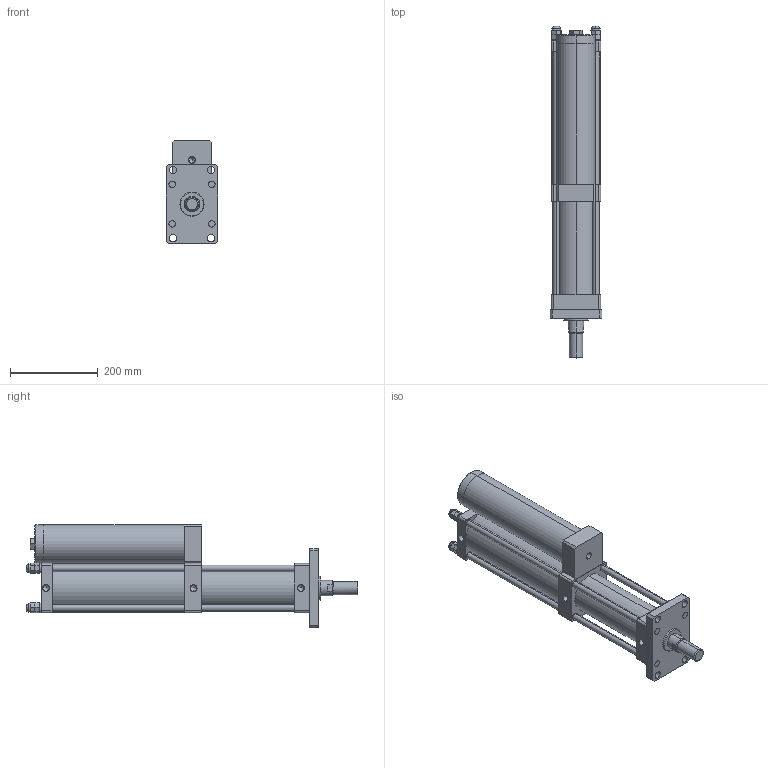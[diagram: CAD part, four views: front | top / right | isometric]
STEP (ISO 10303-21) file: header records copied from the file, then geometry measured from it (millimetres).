
FILE_DESCRIPTION (( 'STEP AP203' ), '1' );
FILE_NAME ('MPT-80-150-20-5T.STEP', '2016-03-11T01:42:22', ( 'WIN' ), ( '' ), 'SwSTEP 2.0', 'SolidWorks 2014', '' );
FILE_SCHEMA (( 'CONFIG_CONTROL_DESIGN' ));
Length unit declared in the file: millimetre
Products named in the file (1): MPT-80-150-20-5T
Bounding box: 118 x 755.13 x 235 mm (x, y, z)
Volume: 6952752.3 mm3; surface area: 760639.5 mm2
Topology: 20 solids, 20 shells, 391 faces, 954 edges, 554 vertices
Faces by surface type: plane 184, cylinder 84, torus 48, bspline 48, cone 27
Entity records: 12532 total; most frequent: CARTESIAN_POINT 3676, DIRECTION 1861, ORIENTED_EDGE 1776, EDGE_CURVE 888, AXIS2_PLACEMENT_3D 683, VERTEX_POINT 554, LINE 495, VECTOR 495
